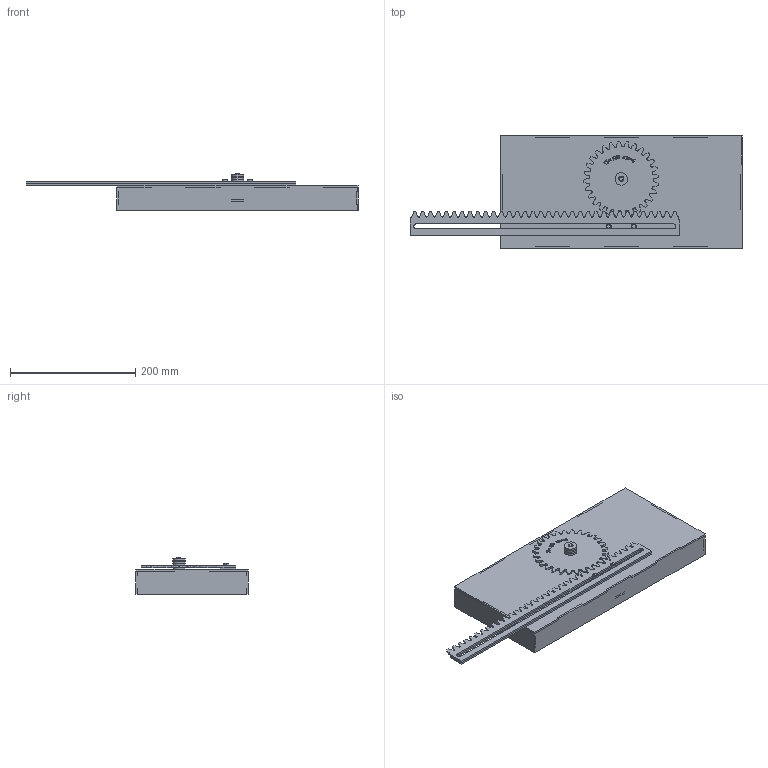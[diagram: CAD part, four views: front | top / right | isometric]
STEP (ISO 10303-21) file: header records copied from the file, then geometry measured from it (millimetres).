
FILE_DESCRIPTION (( 'STEP AP203' ), '1' );
FILE_NAME ('Maquette expérimentation Z28.STEP', '2025-09-19T13:27:44', ( '' ), ( '' ), 'SwSTEP 2.0', 'SolidWorks 2019', '' );
FILE_SCHEMA (( 'CONFIG_CONTROL_DESIGN' ));
Length unit declared in the file: millimetre
Products named in the file (14): Structure support; Cr幦aill鋨e avec support; Engrenage m4 Z28 avec axe; Maquette expérimentation Z28; Structure support renfort; Support Cr幦aill鋨e; Axe pignon L45; Structure support axe L35; Support pignon bouton; Structure support coté 1; Pignon denture droite m=4 Z=28; Cr幦aill鋨e m=4 - 34 dents; Structure support socle; Structure support coté 2
Assembly tree (20 placements, depth 3):
  Maquette expérimentation Z28
    Structure support
      Structure support socle
      Structure support coté 1  x2
      Structure support coté 2  x2
      Structure support renfort
      Structure support axe L35  x2
    Cr幦aill鋨e avec support
      Cr幦aill鋨e m=4 - 34 dents
      Support Cr幦aill鋨e
    Engrenage m4 Z28 avec axe
      Axe pignon L45
      Support pignon bouton  x5
      Pignon denture droite m=4 Z=28
Bounding box: 529.51 x 180 x 59 mm (x, y, z)
Volume: 457072.1 mm3; surface area: 333107.7 mm2
Topology: 17 solids, 17 shells, 867 faces, 2451 edges, 1630 vertices
Faces by surface type: plane 361, bspline 250, cylinder 244, cone 12
Entity records: 33431 total; most frequent: CARTESIAN_POINT 12334, ORIENTED_EDGE 4514, DIRECTION 3343, EDGE_CURVE 2257, VERTEX_POINT 1502, VECTOR 1297, LINE 1297, AXIS2_PLACEMENT_3D 1023
